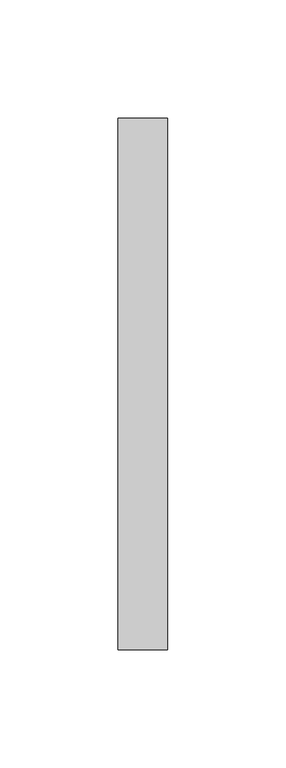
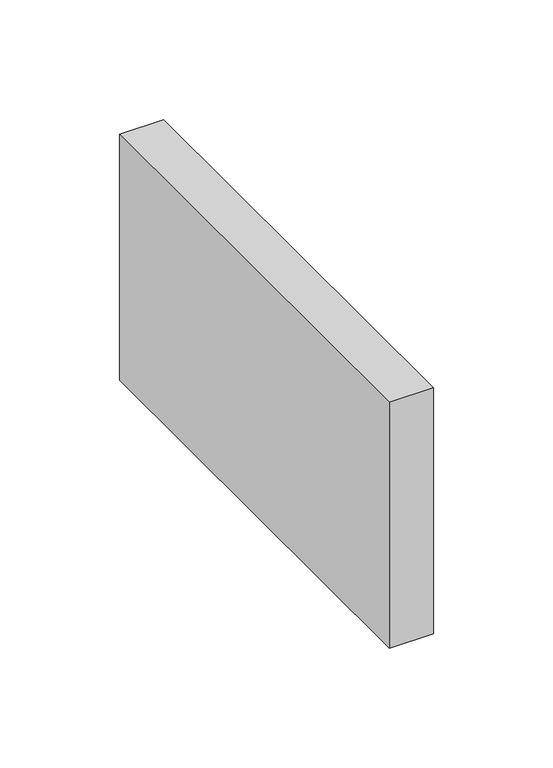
"""IFC4 building model written with IfcOpenShell, lengths in millimetres: duct fitting geometry, MEP_15.03 Injerto Conducte : Mínimo."""

import ifcopenshell
import ifcopenshell.guid

model = None  # the IFC model being written
_history = None  # IfcOwnerHistory: only IFC2X3 demands one
_inside = {}  # id of a spatial element -> (the spatial element, [elements in it])
_under = {}  # id of a project, library or spatial element -> (it, [spatial elements below it])
_declared = {}  # id of a project -> (the project, [libraries it declares])
_typed = {}  # id of a type object -> (the type object, [elements of that type])
_made_of = {}  # id of a material, layer set ... -> (it, [elements and type objects made of it])


def new_model(schema):
    """Start an empty IFC model of exactly this schema.

    Asked for "IFC4X3", IfcOpenShell would pick the latest addendum, in which some entities
    have other attributes; the version numbers below select the first issue.
    IFC2X3 requires an IfcOwnerHistory on every rooted entity: one is made here for all.
    """
    global model, _history
    if schema == "IFC4X3":
        model = ifcopenshell.file(schema_version=(4, 3, 0, 0))
    else:
        model = ifcopenshell.file(schema=schema)
    _inside.clear()
    _under.clear()
    _declared.clear()
    _typed.clear()
    _made_of.clear()
    _history = None
    if model.schema == "IFC2X3":
        org = make("IfcOrganization", Name="unknown")
        user = make(
            "IfcPersonAndOrganization",
            ThePerson=make("IfcPerson", FamilyName="unknown"),
            TheOrganization=org,
        )
        app = make(
            "IfcApplication",
            ApplicationDeveloper=org,
            Version="unknown",
            ApplicationFullName="unknown",
            ApplicationIdentifier="unknown",
        )
        _history = make(
            "IfcOwnerHistory",
            OwningUser=user,
            OwningApplication=app,
            ChangeAction="ADDED",
            CreationDate=0,
        )
    return model


def make(cls, **values):
    """One entity of the class cls with the attributes given. An attribute that is None is left unset."""
    return model.create_entity(
        cls, **{name: value for name, value in values.items() if value is not None}
    )


def rooted(cls, **values):
    """An entity with a GlobalId (a new one), such as an element, a storey or a relation."""
    return make(cls, GlobalId=ifcopenshell.guid.new(), OwnerHistory=_history, **values)


def si_unit(unit_type, name, prefix=None):
    """IfcSIUnit, for example si_unit("LENGTHUNIT", "METRE", prefix="MILLI")."""
    return make("IfcSIUnit", UnitType=unit_type, Prefix=prefix, Name=name)


def assignment(units):
    """IfcUnitAssignment: the units of a project."""
    return None if units is None else make("IfcUnitAssignment", Units=units)


def point(xyz):
    """IfcCartesianPoint."""
    return None if xyz is None else make("IfcCartesianPoint", Coordinates=xyz)


def direction(xyz):
    """IfcDirection."""
    return None if xyz is None else make("IfcDirection", DirectionRatios=xyz)


def frame(location, z_axis=None, x_axis=None):
    """IfcAxis2Placement3D, a coordinate frame: its origin and axes. An axis left out is left unset."""
    return make(
        "IfcAxis2Placement3D",
        Location=point(location),
        Axis=direction(z_axis),
        RefDirection=direction(x_axis),
    )


def origin():
    """The frame at (0, 0, 0) with its axes left unset."""
    return frame((0.0, 0.0, 0.0))


def place(relative_to, where):
    """IfcLocalPlacement: puts the frame where relative to a parent placement (None: the world)."""
    return make(
        "IfcLocalPlacement", PlacementRelTo=relative_to, RelativePlacement=where
    )


def context(
    kind, dimensions, precision=None, world=None, true_north=None, identifier=None
):
    """IfcGeometricRepresentationContext, for example the 3D "Model" context."""
    return make(
        "IfcGeometricRepresentationContext",
        ContextIdentifier=identifier,
        ContextType=kind,
        CoordinateSpaceDimension=dimensions,
        Precision=precision,
        WorldCoordinateSystem=world,
        TrueNorth=true_north,
    )


def project(units=None, contexts=None):
    """IfcProject with its units and contexts."""
    return rooted(
        "IfcProject",
        Name="project",
        RepresentationContexts=contexts,
        UnitsInContext=assignment(units),
    )


def spatial(cls, under=None, at=None, **own):
    """A site, building, storey or space (cls), placed at a placement, below another one or the project."""
    s = rooted(cls, ObjectPlacement=at, **own)
    if under is not None:
        _under.setdefault(under.id(), (under, []))[1].append(s)
    return s


def polyline(points):
    """IfcPolyline through the points."""
    return make("IfcPolyline", Points=[point(p) for p in points])


def outline(outer, holes=None, kind="AREA"):
    """IfcArbitraryClosedProfileDef: a profile drawn as a closed curve; with holes, ...WithVoids."""
    if holes is None:
        return make("IfcArbitraryClosedProfileDef", ProfileType=kind, OuterCurve=outer)
    return make(
        "IfcArbitraryProfileDefWithVoids",
        ProfileType=kind,
        OuterCurve=outer,
        InnerCurves=holes,
    )


def extrude(swept, where, along, depth):
    """IfcExtrudedAreaSolid: the profile swept, set in the frame where, extruded along a direction by depth."""
    return make(
        "IfcExtrudedAreaSolid",
        SweptArea=swept,
        Position=where,
        ExtrudedDirection=direction(along),
        Depth=depth,
    )


def shape(context_of_items, identifier, shape_type, items):
    """IfcShapeRepresentation: the items that make up one representation, for example the "Body"."""
    return make(
        "IfcShapeRepresentation",
        ContextOfItems=context_of_items,
        RepresentationIdentifier=identifier,
        RepresentationType=shape_type,
        Items=items,
    )


def source(mapping_origin, context_of_items, identifier, shape_type, items):
    """IfcRepresentationMap: a shape defined once, which mapped items show again and again."""
    return make(
        "IfcRepresentationMap",
        MappingOrigin=mapping_origin,
        MappedRepresentation=shape(context_of_items, identifier, shape_type, items),
    )


def transform(
    local_origin,
    x_axis=None,
    y_axis=None,
    z_axis=None,
    scale=None,
    scale2=None,
    scale3=None,
    uniform=True,
):
    """IfcCartesianTransformationOperator3D, or its non-uniform kind. x_axis, y_axis, z_axis: its Axis1, 2, 3."""
    if uniform:
        return make(
            "IfcCartesianTransformationOperator3D",
            Axis1=direction(x_axis),
            Axis2=direction(y_axis),
            LocalOrigin=point(local_origin),
            Scale=scale,
            Axis3=direction(z_axis),
        )
    return make(
        "IfcCartesianTransformationOperator3DnonUniform",
        Axis1=direction(x_axis),
        Axis2=direction(y_axis),
        LocalOrigin=point(local_origin),
        Scale=scale,
        Axis3=direction(z_axis),
        Scale2=scale2,
        Scale3=scale3,
    )


def mapped(mapping_source, mapping_target):
    """IfcMappedItem: shows the shape of a source again, moved by a transform."""
    return make(
        "IfcMappedItem", MappingSource=mapping_source, MappingTarget=mapping_target
    )


def made_of(thing, what):
    """Note that an element or type object is made of a material, layer set ...; save() writes the relation."""
    if what is not None:
        _made_of.setdefault(what.id(), (what, []))[1].append(thing)
    return thing


def element(
    cls,
    number,
    at=None,
    inside=None,
    cuts=None,
    type_object=None,
    material=None,
    context=None,
    identifier="Body",
    shape_type=None,
    held_by="IfcProductDefinitionShape",
    body=None,
    shapes=None,
    **own,
):
    """One element of the class cls, such as IfcWall. Its Tag is "e" and its number.

    at: its placement. inside: the storey or other place that contains it. cuts: it is an
    opening in that element (IfcRelVoidsElement). A single representation is given by context,
    identifier, shape_type and body (its items); several are given by shapes. held_by: the class
    of the entity that holds the representations. save() writes the other relations.
    """
    e = rooted(cls, Tag="e%d" % number, ObjectPlacement=at, **own)
    if body is not None:
        shapes = [shape(context, identifier, shape_type, body)]
    if shapes is not None:
        e.Representation = make(held_by, Representations=shapes)
    if inside is not None:
        _inside.setdefault(inside.id(), (inside, []))[1].append(e)
    if cuts is not None:
        rooted(
            "IfcRelVoidsElement", RelatingBuildingElement=cuts, RelatedOpeningElement=e
        )
    if type_object is not None:
        _typed.setdefault(type_object.id(), (type_object, []))[1].append(e)
    return made_of(e, material)


def aggregate(whole, parts):
    """IfcRelAggregates: a whole, such as a stair, and the parts it consists of."""
    return rooted("IfcRelAggregates", RelatingObject=whole, RelatedObjects=parts)


def save(model, path):
    """Write the relations noted so far, then the file.

    IfcRelAggregates (storeys below a building ...), IfcRelContainedInSpatialStructure (elements
    in a storey), IfcRelDefinesByType, IfcRelAssociatesMaterial and IfcRelDeclares: one each for
    every whole, place, type object, material and project.
    """
    for whole, parts in _under.values():
        aggregate(whole, parts)
    for where, things in _inside.values():
        rooted(
            "IfcRelContainedInSpatialStructure",
            RelatedElements=things,
            RelatingStructure=where,
        )
    for kind, things in _typed.values():
        rooted("IfcRelDefinesByType", RelatedObjects=things, RelatingType=kind)
    for what, things in _made_of.values():
        rooted("IfcRelAssociatesMaterial", RelatedObjects=things, RelatingMaterial=what)
    for by, libraries in _declared.values():
        rooted("IfcRelDeclares", RelatingContext=by, RelatedDefinitions=libraries)
    model.write(path)


def duct_fitting_9552c512(model_context):
    return source(origin(), model_context, "Body", "SweptSolid", [
        extrude(outline(polyline([(-6.096, 112.5), (15.0, 112.5), (15.0, -112.5), (-6.096, -112.5), (-6.096, 112.5)])), frame((0.0, 0.0, -62.5), z_axis=(0.0, 0.0, 1.0), x_axis=(1.0, 0.0, 0.0)), (0.0, 0.0, 1.0), 125.0),
    ])


if __name__ == "__main__":
    model = new_model("IFC4")
    model_context = context("Model", 3, world=origin())
    ifc_project = project(units=[si_unit("LENGTHUNIT", "METRE", prefix="MILLI")], contexts=[model_context])
    site = spatial("IfcSite", under=ifc_project)
    building = spatial("IfcBuilding", under=site)
    placement = place(None, origin())
    duct_fitting_shape = duct_fitting_9552c512(model_context)
    element("IfcDuctFitting", 1, ObjectType="MEP_15.03 Injerto Conducte : Mínimo", at=placement, inside=building, context=model_context, shape_type="MappedRepresentation", body=[
        mapped(duct_fitting_shape, transform((0.0, 0.0, 0.0), x_axis=(1.0, 0.0, 0.0), y_axis=(0.0, 1.0, 0.0), z_axis=(0.0, 0.0, 1.0))),
    ])
    save(model, "model.ifc")
